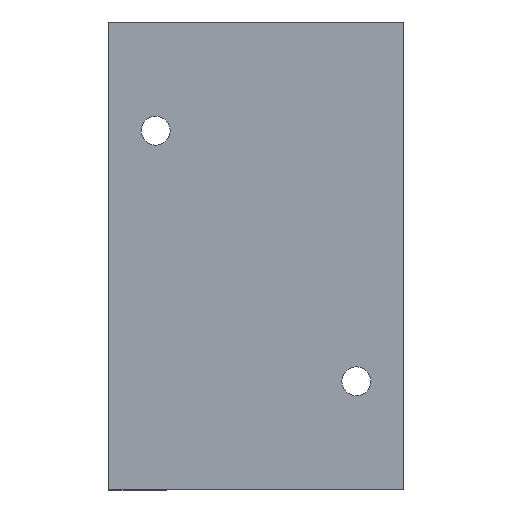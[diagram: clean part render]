
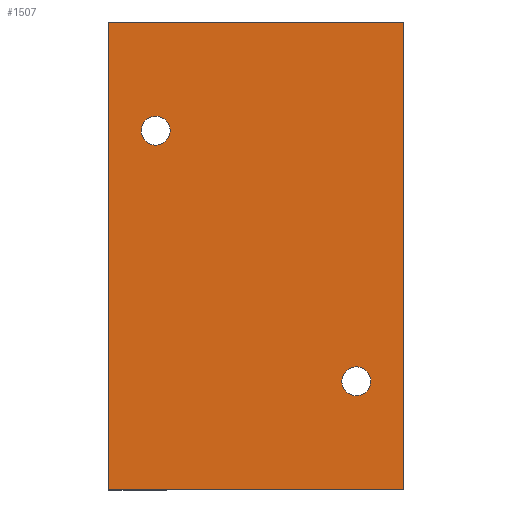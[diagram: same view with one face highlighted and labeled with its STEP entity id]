
A CAD part, front view. The second image highlights one B-rep face of the part: STEP entity #1507.
In plain terms, the highlighted planar face has unit normal (0, -1, 0).
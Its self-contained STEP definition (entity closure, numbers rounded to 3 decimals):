
#16 = VERTEX_POINT ( 'NONE', #1380 ) ;
#66 = DIRECTION ( 'NONE',  ( 0., 0., -1. ) ) ;
#86 = CARTESIAN_POINT ( 'NONE',  ( 26.5, -21., 42. ) ) ;
#95 = EDGE_CURVE ( 'NONE', #647, #563, #277, .T. ) ;
#110 = CARTESIAN_POINT ( 'NONE',  ( -18., -21., 22.5 ) ) ;
#137 = DIRECTION ( 'NONE',  ( 0., -1., 0. ) ) ;
#139 = VERTEX_POINT ( 'NONE', #1659 ) ;
#158 = AXIS2_PLACEMENT_3D ( 'NONE', #110, #631, #373 ) ;
#162 = CIRCLE ( 'NONE', #1161, 2.6 ) ;
#174 = EDGE_CURVE ( 'NONE', #213, #445, #1495, .T. ) ;
#192 = DIRECTION ( 'NONE',  ( 0., 1., 0. ) ) ;
#213 = VERTEX_POINT ( 'NONE', #930 ) ;
#217 = DIRECTION ( 'NONE',  ( 0., 0., 1. ) ) ;
#277 = CIRCLE ( 'NONE', #705, 2.6 ) ;
#302 = AXIS2_PLACEMENT_3D ( 'NONE', #323, #192, #217 ) ;
#310 = ORIENTED_EDGE ( 'NONE', *, *, #1329, .F. ) ;
#320 = ORIENTED_EDGE ( 'NONE', *, *, #472, .T. ) ;
#323 = CARTESIAN_POINT ( 'NONE',  ( -26.5, -21., 42. ) ) ;
#358 = VECTOR ( 'NONE', #1277, 1000. ) ;
#373 = DIRECTION ( 'NONE',  ( 0., 0., -1. ) ) ;
#388 = DIRECTION ( 'NONE',  ( 0., -1., 0. ) ) ;
#394 = CARTESIAN_POINT ( 'NONE',  ( 18., -21., -19.9 ) ) ;
#416 = EDGE_CURVE ( 'NONE', #445, #213, #890, .T. ) ;
#445 = VERTEX_POINT ( 'NONE', #759 ) ;
#472 = EDGE_CURVE ( 'NONE', #16, #1061, #1033, .T. ) ;
#473 = AXIS2_PLACEMENT_3D ( 'NONE', #1466, #812, #1331 ) ;
#485 = EDGE_CURVE ( 'NONE', #563, #647, #162, .T. ) ;
#518 = VECTOR ( 'NONE', #885, 1000. ) ;
#548 = CARTESIAN_POINT ( 'NONE',  ( -26.5, -21., 42. ) ) ;
#563 = VERTEX_POINT ( 'NONE', #1154 ) ;
#631 = DIRECTION ( 'NONE',  ( 0., -1., 0. ) ) ;
#636 = DIRECTION ( 'NONE',  ( 0., 0., -1. ) ) ;
#639 = CARTESIAN_POINT ( 'NONE',  ( 18., -21., -22.5 ) ) ;
#640 = LINE ( 'NONE', #1150, #518 ) ;
#647 = VERTEX_POINT ( 'NONE', #394 ) ;
#663 = ORIENTED_EDGE ( 'NONE', *, *, #174, .F. ) ;
#705 = AXIS2_PLACEMENT_3D ( 'NONE', #1273, #388, #636 ) ;
#714 = ORIENTED_EDGE ( 'NONE', *, *, #416, .F. ) ;
#716 = LINE ( 'NONE', #1232, #831 ) ;
#736 = ORIENTED_EDGE ( 'NONE', *, *, #485, .F. ) ;
#749 = CARTESIAN_POINT ( 'NONE',  ( -26.5, -21., -42. ) ) ;
#759 = CARTESIAN_POINT ( 'NONE',  ( -18., -21., 25.1 ) ) ;
#812 = DIRECTION ( 'NONE',  ( 0., -1., 0. ) ) ;
#831 = VECTOR ( 'NONE', #66, 1000. ) ;
#833 = VERTEX_POINT ( 'NONE', #548 ) ;
#838 = FACE_BOUND ( 'NONE', #1473, .T. ) ;
#846 = FACE_OUTER_BOUND ( 'NONE', #1560, .T. ) ;
#885 = DIRECTION ( 'NONE',  ( 1., 0., 0. ) ) ;
#890 = CIRCLE ( 'NONE', #158, 2.6 ) ;
#930 = CARTESIAN_POINT ( 'NONE',  ( -18., -21., 19.9 ) ) ;
#990 = ORIENTED_EDGE ( 'NONE', *, *, #1552, .T. ) ;
#1003 = EDGE_LOOP ( 'NONE', ( #663, #714 ) ) ;
#1033 = LINE ( 'NONE', #749, #358 ) ;
#1061 = VERTEX_POINT ( 'NONE', #1246 ) ;
#1103 = FACE_BOUND ( 'NONE', #1003, .T. ) ;
#1150 = CARTESIAN_POINT ( 'NONE',  ( -26.5, -21., 42. ) ) ;
#1154 = CARTESIAN_POINT ( 'NONE',  ( 18., -21., -25.1 ) ) ;
#1161 = AXIS2_PLACEMENT_3D ( 'NONE', #639, #137, #1171 ) ;
#1171 = DIRECTION ( 'NONE',  ( 0., 0., -1. ) ) ;
#1182 = EDGE_CURVE ( 'NONE', #139, #1061, #1644, .T. ) ;
#1232 = CARTESIAN_POINT ( 'NONE',  ( -26.5, -21., 42. ) ) ;
#1246 = CARTESIAN_POINT ( 'NONE',  ( 26.5, -21., -42. ) ) ;
#1273 = CARTESIAN_POINT ( 'NONE',  ( 18., -21., -22.5 ) ) ;
#1277 = DIRECTION ( 'NONE',  ( 1., 0., 0. ) ) ;
#1329 = EDGE_CURVE ( 'NONE', #833, #139, #640, .T. ) ;
#1331 = DIRECTION ( 'NONE',  ( 0., 0., -1. ) ) ;
#1373 = ORIENTED_EDGE ( 'NONE', *, *, #1182, .F. ) ;
#1380 = CARTESIAN_POINT ( 'NONE',  ( -26.5, -21., -42. ) ) ;
#1428 = ORIENTED_EDGE ( 'NONE', *, *, #95, .F. ) ;
#1466 = CARTESIAN_POINT ( 'NONE',  ( -18., -21., 22.5 ) ) ;
#1473 = EDGE_LOOP ( 'NONE', ( #736, #1428 ) ) ;
#1483 = PLANE ( 'NONE',  #302 ) ;
#1495 = CIRCLE ( 'NONE', #473, 2.6 ) ;
#1504 = DIRECTION ( 'NONE',  ( 0., 0., -1. ) ) ;
#1507 = ADVANCED_FACE ( 'NONE', ( #838, #1103, #846 ), #1483, .F. ) ;
#1552 = EDGE_CURVE ( 'NONE', #833, #16, #716, .T. ) ;
#1560 = EDGE_LOOP ( 'NONE', ( #320, #1373, #310, #990 ) ) ;
#1593 = VECTOR ( 'NONE', #1504, 1000. ) ;
#1644 = LINE ( 'NONE', #86, #1593 ) ;
#1659 = CARTESIAN_POINT ( 'NONE',  ( 26.5, -21., 42. ) ) ;
